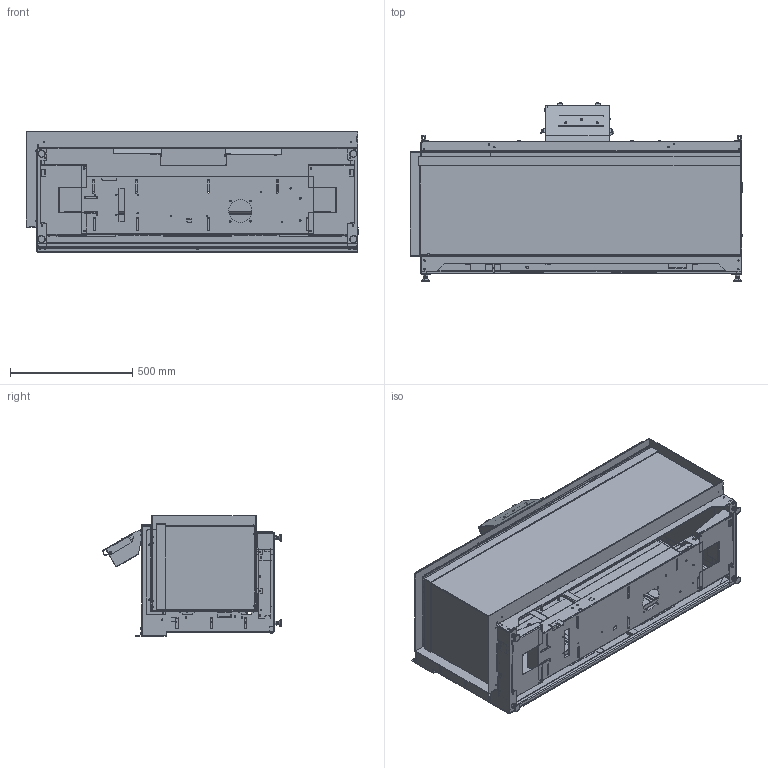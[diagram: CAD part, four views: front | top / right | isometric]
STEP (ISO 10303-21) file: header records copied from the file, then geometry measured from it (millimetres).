
FILE_DESCRIPTION (( 'STEP AP203' ), '1' );
FILE_NAME ('E-ONE GEN2 130 CL MAIN ASSY.STEP', '2023-10-18T08:18:29', ( '' ), ( '' ), 'SwSTEP 2.0', 'SolidWorks 2020', '' );
FILE_SCHEMA (( 'CONFIG_CONTROL_DESIGN' ));
Length unit declared in the file: millimetre
Products named in the file (1): E-ONE GEN2 130 CL MAIN ASSY
Bounding box: 1355.7 x 728.5 x 492 mm (x, y, z)
Surface area: 7210577.6 mm2 (no closed solid volume)
Topology: 0 solids, 244 shells, 818 faces, 6682 edges, 5856 vertices
Faces by surface type: plane 554, cylinder 189, cone 42, torus 15, bspline 14, sphere 4
Entity records: 64094 total; most frequent: CARTESIAN_POINT 14935, DIRECTION 10547, ORIENTED_EDGE 7600, EDGE_CURVE 6682, VERTEX_POINT 5856, VECTOR 4065, LINE 4065, AXIS2_PLACEMENT_3D 3241
